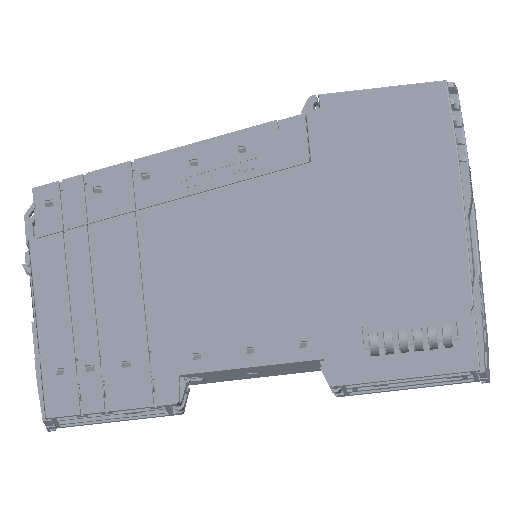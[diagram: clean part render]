
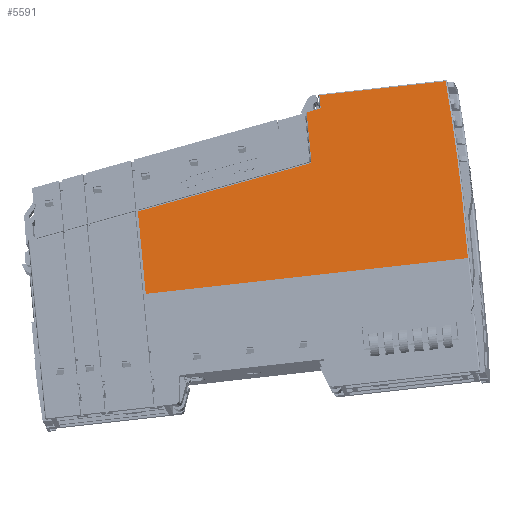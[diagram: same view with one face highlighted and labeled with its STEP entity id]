
A CAD part, top view. The second image highlights one B-rep face of the part: STEP entity #5591.
In plain terms, the highlighted planar face has unit normal (-0.095, 0.186, 0.978) as drawn and (1, 0, 0) by its records, which use the part's own axes.
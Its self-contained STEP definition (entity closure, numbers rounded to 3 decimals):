
#1378 = VECTOR ( 'NONE', #8995, 1000. ) ;
#5591 = ADVANCED_FACE ( 'NONE', ( #29020 ), #47594, .T. ) ;
#8995 = DIRECTION ( 'NONE',  ( 0., 0.986, 0.164 ) ) ;
#18993 = VECTOR ( 'NONE', #241729, 1000. ) ;
#25616 = VERTEX_POINT ( 'NONE', #160460 ) ;
#26250 = CARTESIAN_POINT ( 'NONE',  ( 6.9, 55.05, -7.5 ) ) ;
#27794 = DIRECTION ( 'NONE',  ( 1., 0., 0. ) ) ;
#28047 = CARTESIAN_POINT ( 'NONE',  ( 6.9, 19.3, 32.85 ) ) ;
#29020 = FACE_OUTER_BOUND ( 'NONE', #79187, .T. ) ;
#30532 = VECTOR ( 'NONE', #239555, 1000. ) ;
#36171 = EDGE_CURVE ( 'NONE', #158662, #25616, #196010, .T. ) ;
#37121 = CARTESIAN_POINT ( 'NONE',  ( 6.9, -442.82, 0. ) ) ;
#37578 = AXIS2_PLACEMENT_3D ( 'NONE', #37121, #182332, #53329 ) ;
#42252 = ORIENTED_EDGE ( 'NONE', *, *, #178128, .T. ) ;
#46200 = LINE ( 'NONE', #66085, #30532 ) ;
#47594 = PLANE ( 'NONE',  #198833 ) ;
#47595 = LINE ( 'NONE', #140588, #121701 ) ;
#51611 = EDGE_CURVE ( 'NONE', #164868, #171109, #82082, .T. ) ;
#53329 = DIRECTION ( 'NONE',  ( 0., 0.999, 0.046 ) ) ;
#54196 = VECTOR ( 'NONE', #157712, 1000. ) ;
#56147 = CARTESIAN_POINT ( 'NONE',  ( 6.9, 55.054, 9. ) ) ;
#56237 = ORIENTED_EDGE ( 'NONE', *, *, #202578, .F. ) ;
#61142 = VECTOR ( 'NONE', #178673, 1000. ) ;
#61998 = ORIENTED_EDGE ( 'NONE', *, *, #36171, .F. ) ;
#65628 = B_SPLINE_CURVE_WITH_KNOTS ( 'NONE', 3,
 ( #73539, #226011, #56147, #224803 ),
 .UNSPECIFIED., .F., .F.,
 ( 4, 4 ),
 ( 0., 1. ),
 .UNSPECIFIED. ) ;
#66085 = CARTESIAN_POINT ( 'NONE',  ( 6.9, 27.119, 36.7 ) ) ;
#69221 = VECTOR ( 'NONE', #157656, 1000. ) ;
#72128 = VERTEX_POINT ( 'NONE', #28047 ) ;
#73539 = CARTESIAN_POINT ( 'NONE',  ( 6.9, 55.05, 9. ) ) ;
#75305 = EDGE_CURVE ( 'NONE', #136500, #94813, #198633, .T. ) ;
#79187 = EDGE_LOOP ( 'NONE', ( #130971, #201094, #172441, #191534, #42252, #184150, #61998, #56237, #216467, #126761 ) ) ;
#82082 = LINE ( 'NONE', #26250, #69221 ) ;
#84850 = DIRECTION ( 'NONE',  ( 0., 0., -1. ) ) ;
#94813 = VERTEX_POINT ( 'NONE', #226291 ) ;
#104695 = DIRECTION ( 'NONE',  ( 0., 0.707, 0.707 ) ) ;
#118360 = CARTESIAN_POINT ( 'NONE',  ( 6.9, 55.05, 9. ) ) ;
#118866 = EDGE_CURVE ( 'NONE', #242655, #72128, #137473, .T. ) ;
#121701 = VECTOR ( 'NONE', #84850, 1000. ) ;
#126029 = CARTESIAN_POINT ( 'NONE',  ( 6.9, -24., 13.028 ) ) ;
#126761 = ORIENTED_EDGE ( 'NONE', *, *, #118866, .T. ) ;
#129608 = CARTESIAN_POINT ( 'NONE',  ( 6.9, 22.8, 36.7 ) ) ;
#130971 = ORIENTED_EDGE ( 'NONE', *, *, #238712, .F. ) ;
#131624 = VECTOR ( 'NONE', #213169, 1000. ) ;
#134223 = CARTESIAN_POINT ( 'NONE',  ( 6.9, 22.8, 18.5 ) ) ;
#136500 = VERTEX_POINT ( 'NONE', #126029 ) ;
#136651 = LINE ( 'NONE', #134223, #54196 ) ;
#137473 = LINE ( 'NONE', #139925, #131624 ) ;
#139925 = CARTESIAN_POINT ( 'NONE',  ( 6.9, 33.354, 35.202 ) ) ;
#140588 = CARTESIAN_POINT ( 'NONE',  ( 6.9, -24., 0. ) ) ;
#142338 = CARTESIAN_POINT ( 'NONE',  ( 6.9, 55.05, -7.5 ) ) ;
#157656 = DIRECTION ( 'NONE',  ( 0., 1., 0. ) ) ;
#157712 = DIRECTION ( 'NONE',  ( 0., 0., 1. ) ) ;
#158662 = VERTEX_POINT ( 'NONE', #206817 ) ;
#160460 = CARTESIAN_POINT ( 'NONE',  ( 6.9, 55.055, 9. ) ) ;
#164868 = VERTEX_POINT ( 'NONE', #169597 ) ;
#169597 = CARTESIAN_POINT ( 'NONE',  ( 6.9, -24., -7.5 ) ) ;
#171109 = VERTEX_POINT ( 'NONE', #142338 ) ;
#172441 = ORIENTED_EDGE ( 'NONE', *, *, #181005, .T. ) ;
#174195 = EDGE_CURVE ( 'NONE', #205816, #25616, #65628, .T. ) ;
#178128 = EDGE_CURVE ( 'NONE', #171109, #205816, #217155, .T. ) ;
#178673 = DIRECTION ( 'NONE',  ( 0., 0., 1. ) ) ;
#181005 = EDGE_CURVE ( 'NONE', #136500, #164868, #47595, .T. ) ;
#182301 = LINE ( 'NONE', #223162, #18993 ) ;
#182332 = DIRECTION ( 'NONE',  ( -1., 0., 0. ) ) ;
#182539 = EDGE_CURVE ( 'NONE', #242655, #242960, #136651, .T. ) ;
#184150 = ORIENTED_EDGE ( 'NONE', *, *, #174195, .T. ) ;
#191534 = ORIENTED_EDGE ( 'NONE', *, *, #51611, .T. ) ;
#196010 = CIRCLE ( 'NONE', #37578, 497.957 ) ;
#197634 = CARTESIAN_POINT ( 'NONE',  ( 6.9, 54., 0. ) ) ;
#198633 = LINE ( 'NONE', #235790, #1378 ) ;
#198833 = AXIS2_PLACEMENT_3D ( 'NONE', #197634, #27794, #104695 ) ;
#201094 = ORIENTED_EDGE ( 'NONE', *, *, #75305, .F. ) ;
#202578 = EDGE_CURVE ( 'NONE', #242960, #158662, #46200, .T. ) ;
#205816 = VERTEX_POINT ( 'NONE', #118360 ) ;
#206817 = CARTESIAN_POINT ( 'NONE',  ( 6.9, 53.783, 36.7 ) ) ;
#211666 = CARTESIAN_POINT ( 'NONE',  ( 6.9, 22.8, 33.436 ) ) ;
#213169 = DIRECTION ( 'NONE',  ( 0., -0.986, -0.165 ) ) ;
#216467 = ORIENTED_EDGE ( 'NONE', *, *, #182539, .F. ) ;
#217155 = LINE ( 'NONE', #234435, #61142 ) ;
#223162 = CARTESIAN_POINT ( 'NONE',  ( 6.9, 19.3, 15. ) ) ;
#224803 = CARTESIAN_POINT ( 'NONE',  ( 6.9, 55.055, 9. ) ) ;
#226011 = CARTESIAN_POINT ( 'NONE',  ( 6.9, 55.052, 9. ) ) ;
#226291 = CARTESIAN_POINT ( 'NONE',  ( 6.9, 19.3, 20.243 ) ) ;
#234435 = CARTESIAN_POINT ( 'NONE',  ( 6.9, 55.05, 0. ) ) ;
#235790 = CARTESIAN_POINT ( 'NONE',  ( 6.9, 36.165, 23.053 ) ) ;
#238712 = EDGE_CURVE ( 'NONE', #94813, #72128, #182301, .T. ) ;
#239555 = DIRECTION ( 'NONE',  ( 0., 1., 0. ) ) ;
#241729 = DIRECTION ( 'NONE',  ( 0., 0., 1. ) ) ;
#242655 = VERTEX_POINT ( 'NONE', #211666 ) ;
#242960 = VERTEX_POINT ( 'NONE', #129608 ) ;
